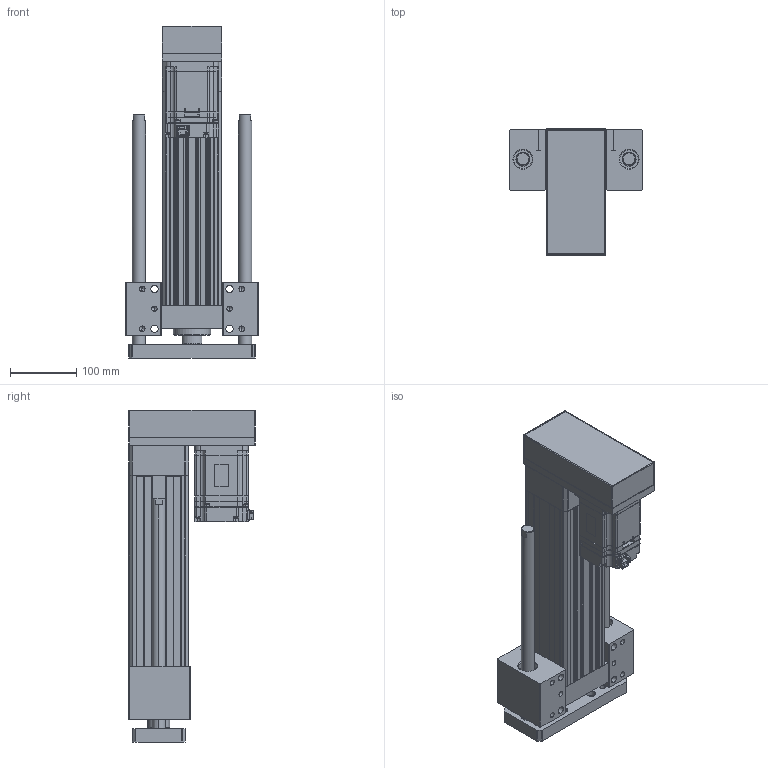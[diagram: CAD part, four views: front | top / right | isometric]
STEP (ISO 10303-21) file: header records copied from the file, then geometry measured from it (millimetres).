
FILE_DESCRIPTION (( 'STEP AP203' ), '1' );
FILE_NAME ('ANS090R-HP200-05(10)(20)-W75.STEP', '2019-03-02T09:38:54', ( 'user' ), ( '' ), 'SwSTEP 2.0', 'SolidWorks 2013', '' );
FILE_SCHEMA (( 'CONFIG_CONTROL_DESIGN' ));
Length unit declared in the file: millimetre
Products named in the file (4): ANS090R HP200 VER2; SGMJV_08A_A21; ANS090 ROD ST200-H; ANS090R-HP200-05(10)(20)-W75
Assembly tree (3 placements, depth 2):
  ANS090R-HP200-05(10)(20)-W75
    ANS090R HP200 VER2
    SGMJV_08A_A21
    ANS090 ROD ST200-H
Bounding box: 200 x 190 x 500 mm (x, y, z)
Volume: 3871031.5 mm3; surface area: 680417.6 mm2
Topology: 3 solids, 3 shells, 1228 faces, 3234 edges, 2090 vertices
Faces by surface type: plane 688, cylinder 434, cone 94, sphere 8, bspline 4
Entity records: 38470 total; most frequent: CARTESIAN_POINT 7180, DIRECTION 6468, ORIENTED_EDGE 6420, EDGE_CURVE 3210, LINE 2168, VECTOR 2168, AXIS2_PLACEMENT_3D 2150, VERTEX_POINT 2090
